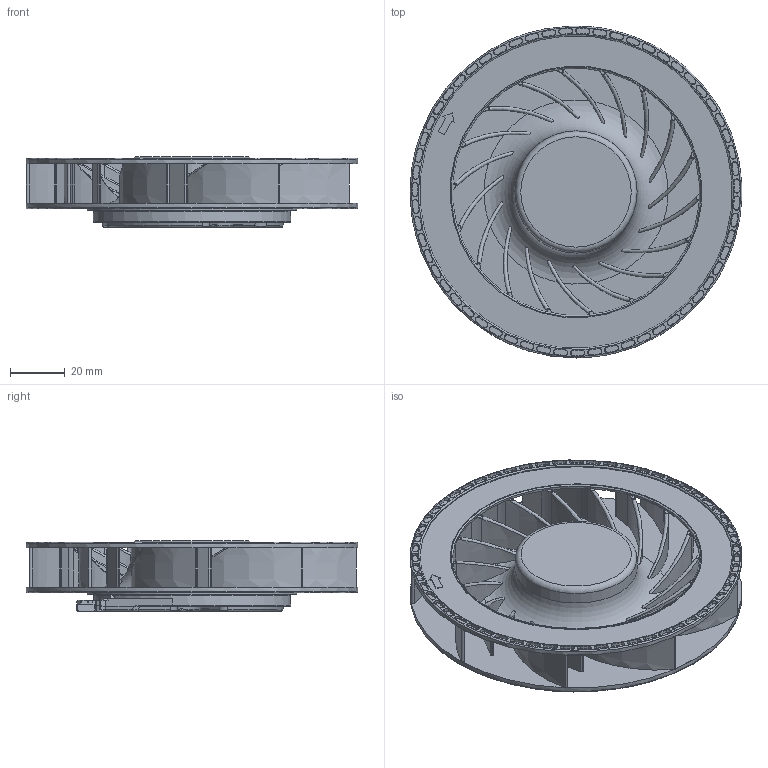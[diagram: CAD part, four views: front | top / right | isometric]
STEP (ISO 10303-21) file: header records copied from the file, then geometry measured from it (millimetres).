
FILE_DESCRIPTION(/* description */ (''),/* implementation_level */ '2;1');
FILE_NAME(/* name */ '12025离心机-铝底座款-3D图档.stp',/* time_stamp */ '2026-09-30T11:02:29+08:00',/* author */ (''),/* organization */ (''),/* preprocessor_version */ 'ST-DEVELOPER v16',/* originating_system */ 'SIEMENS PLM Software NX 10.0',/* authorisation */ '');
FILE_SCHEMA (('AUTOMOTIVE_DESIGN { 1 0 10303 214 3 1 1 1 }'));
Products named in the file (1): Admi0EB4CBD20495
Bounding box: 120.8 x 120.8 x 25.57 mm (x, y, z)
Volume: 49802.3 mm3; surface area: 70126.5 mm2
Topology: 2 solids, 2 shells, 1399 faces, 3811 edges, 2523 vertices
Faces by surface type: bspline 512, plane 368, cone 279, cylinder 169, extrusion 45, torus 26
Full cylindrical faces by diameter (mm): 2.5 x1, 3 x2, 4.4 x1, 8 x2, 9.5 x1, 9.99 x1, 10.02 x1, 10.8 x1, 15.7 x1, 44.5 x1, 74 x1, 76.4 x1, 91.647 x1, 113.779 x2, 120.8 x1
Entity records: 72665 total; most frequent: CARTESIAN_POINT 40983, ORIENTED_EDGE 7448, DIRECTION 5053, EDGE_CURVE 3724, VERTEX_POINT 2491, AXIS2_PLACEMENT_3D 1861, EDGE_LOOP 1603, B_SPLINE_CURVE_WITH_KNOTS 1453
